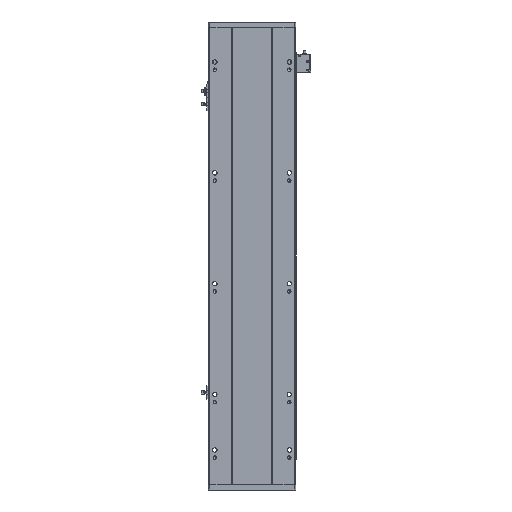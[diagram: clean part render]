
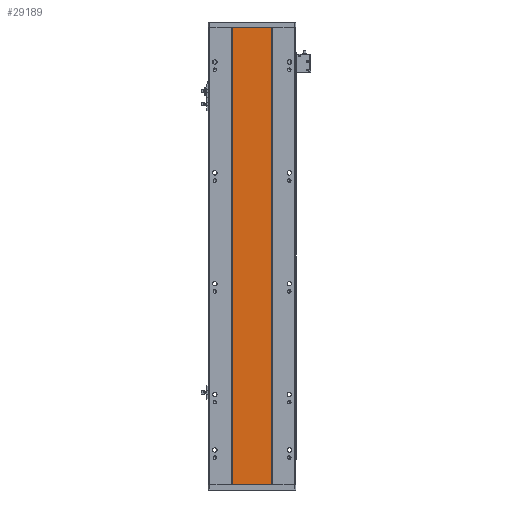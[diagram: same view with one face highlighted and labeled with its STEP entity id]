
A CAD part, front view. The second image highlights one B-rep face of the part: STEP entity #29189.
In plain terms, the highlighted planar face has unit normal (0, -1, 0).
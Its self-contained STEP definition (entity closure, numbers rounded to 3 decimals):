
#216 = EDGE_CURVE ( 'NONE', #23767, #7744, #2314, .T. ) ;
#947 = VERTEX_POINT ( 'NONE', #27323 ) ;
#1403 = CARTESIAN_POINT ( 'NONE',  ( 129.288, 16.9, 0. ) ) ;
#1845 = CARTESIAN_POINT ( 'NONE',  ( 205.288, 16.9, 0. ) ) ;
#2314 = LINE ( 'NONE', #1845, #9386 ) ;
#3082 = VECTOR ( 'NONE', #8768, 1000. ) ;
#3283 = DIRECTION ( 'NONE',  ( 0., 1., 0. ) ) ;
#3865 = CARTESIAN_POINT ( 'NONE',  ( 129.288, 16.9, 892. ) ) ;
#5283 = DIRECTION ( 'NONE',  ( -1., 0., 0. ) ) ;
#5869 = LINE ( 'NONE', #18295, #17764 ) ;
#7081 = ORIENTED_EDGE ( 'NONE', *, *, #216, .T. ) ;
#7744 = VERTEX_POINT ( 'NONE', #22024 ) ;
#8363 = DIRECTION ( 'NONE',  ( 1., 0., 0. ) ) ;
#8723 = ORIENTED_EDGE ( 'NONE', *, *, #29979, .F. ) ;
#8768 = DIRECTION ( 'NONE',  ( 0., 0., -1. ) ) ;
#9386 = VECTOR ( 'NONE', #13707, 1000. ) ;
#9496 = EDGE_CURVE ( 'NONE', #22510, #7744, #23245, .T. ) ;
#10729 = EDGE_CURVE ( 'NONE', #947, #23767, #5869, .T. ) ;
#13707 = DIRECTION ( 'NONE',  ( 1., 0., 0. ) ) ;
#15816 = VECTOR ( 'NONE', #8363, 1000. ) ;
#17764 = VECTOR ( 'NONE', #20925, 1000. ) ;
#18295 = CARTESIAN_POINT ( 'NONE',  ( 129.288, 16.9, 892. ) ) ;
#19120 = CARTESIAN_POINT ( 'NONE',  ( 205.288, 16.9, 892. ) ) ;
#19310 = ORIENTED_EDGE ( 'NONE', *, *, #9496, .F. ) ;
#20925 = DIRECTION ( 'NONE',  ( 0., 0., -1. ) ) ;
#22024 = CARTESIAN_POINT ( 'NONE',  ( 205.288, 16.9, 0. ) ) ;
#22510 = VERTEX_POINT ( 'NONE', #29815 ) ;
#23022 = CARTESIAN_POINT ( 'NONE',  ( 205.288, 16.9, 892. ) ) ;
#23245 = LINE ( 'NONE', #23022, #3082 ) ;
#23767 = VERTEX_POINT ( 'NONE', #1403 ) ;
#25538 = FACE_OUTER_BOUND ( 'NONE', #28520, .T. ) ;
#25623 = ORIENTED_EDGE ( 'NONE', *, *, #10729, .T. ) ;
#27323 = CARTESIAN_POINT ( 'NONE',  ( 129.288, 16.9, 892. ) ) ;
#28520 = EDGE_LOOP ( 'NONE', ( #7081, #19310, #8723, #25623 ) ) ;
#29189 = ADVANCED_FACE ( 'NONE', ( #25538 ), #30976, .F. ) ;
#29313 = LINE ( 'NONE', #3865, #15816 ) ;
#29815 = CARTESIAN_POINT ( 'NONE',  ( 205.288, 16.9, 892. ) ) ;
#29979 = EDGE_CURVE ( 'NONE', #947, #22510, #29313, .T. ) ;
#30467 = AXIS2_PLACEMENT_3D ( 'NONE', #19120, #3283, #5283 ) ;
#30976 = PLANE ( 'NONE',  #30467 ) ;
